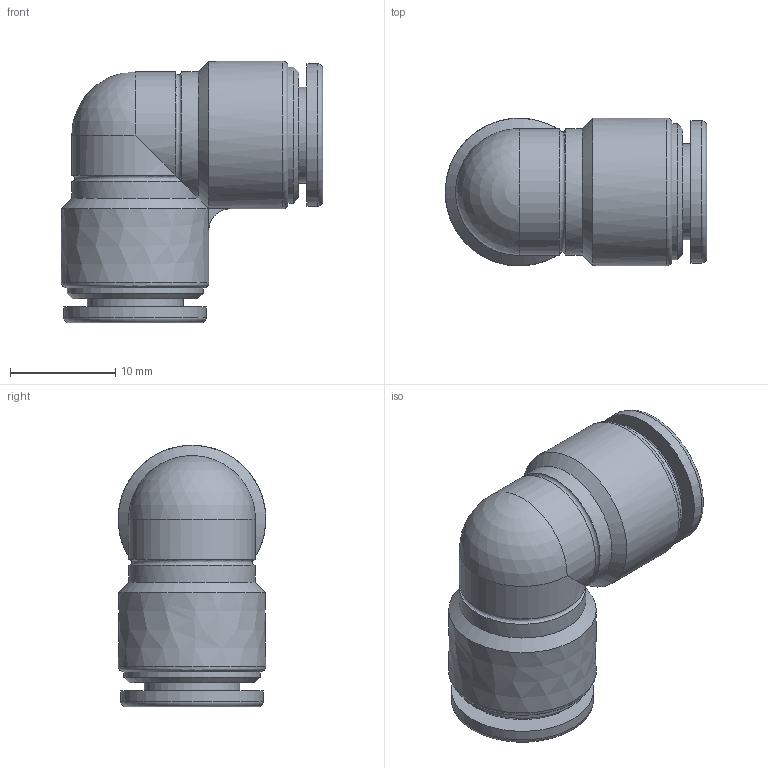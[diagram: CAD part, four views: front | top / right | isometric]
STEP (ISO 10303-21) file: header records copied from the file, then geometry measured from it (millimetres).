
FILE_DESCRIPTION((''),'2;1');
FILE_NAME('E:\2012年度板ﾃﾞｰﾀ\CHIYODA 3D-CAD DATA (Inventor 11)\TOUCH CONNECTOR FIVE (Inventor 11)\[16] UNION ELBOW\[03] FR8-00UL FR8-00ULW.stp','2012-03-21T16:18:01',('kazuhiro.t'),(''),'Autodesk Inventor 11','Autodesk Inventor 11','');
FILE_SCHEMA(('AUTOMOTIVE_DESIGN { 1 0 10303 214 1 1 1 1 }'));
Length unit declared in the file: millimetre
Products named in the file (1): [03] FR8-00UL FR8-00ULW
Bounding box: 24.8 x 14 x 24.8 mm (x, y, z)
Volume: 3262.3 mm3; surface area: 2712.2 mm2
Topology: 1 solids, 1 shells, 42 faces, 86 edges, 53 vertices
Faces by surface type: bspline 13, plane 11, cylinder 10, torus 4, cone 3, sphere 1
Full cylindrical faces by diameter (mm): 9.1 x2, 12.9 x2, 13.5 x2, 14 x1
Entity records: 1294 total; most frequent: CARTESIAN_POINT 477, DIRECTION 166, ORIENTED_EDGE 138, AXIS2_PLACEMENT_3D 75, EDGE_CURVE 69, EDGE_LOOP 66, VERTEX_POINT 53, FACE_OUTER_BOUND 42
